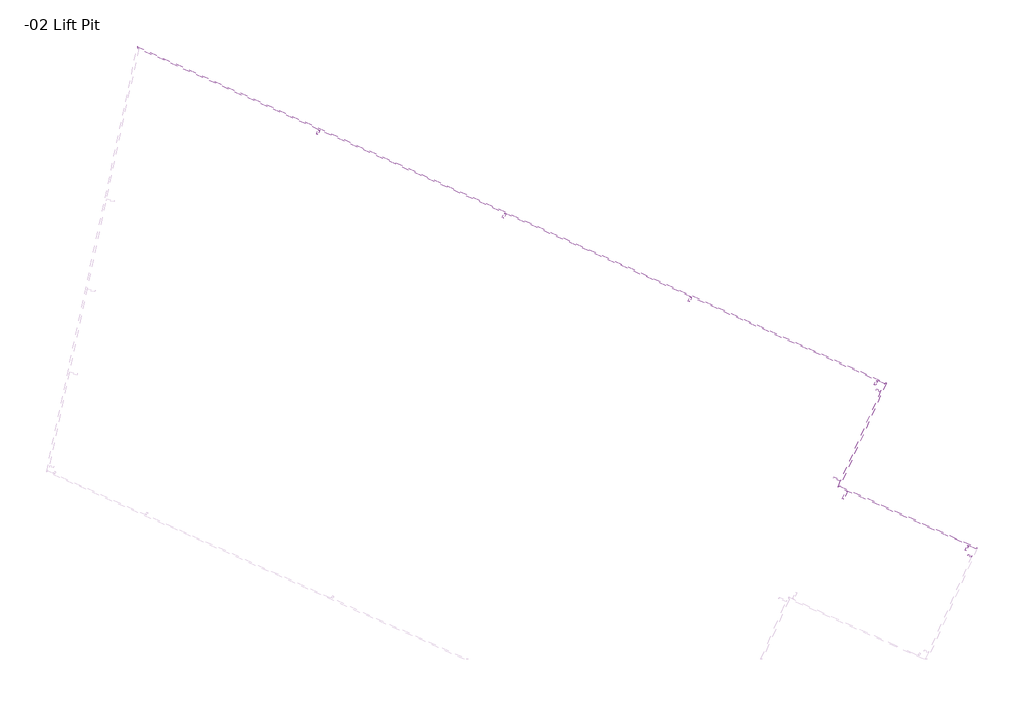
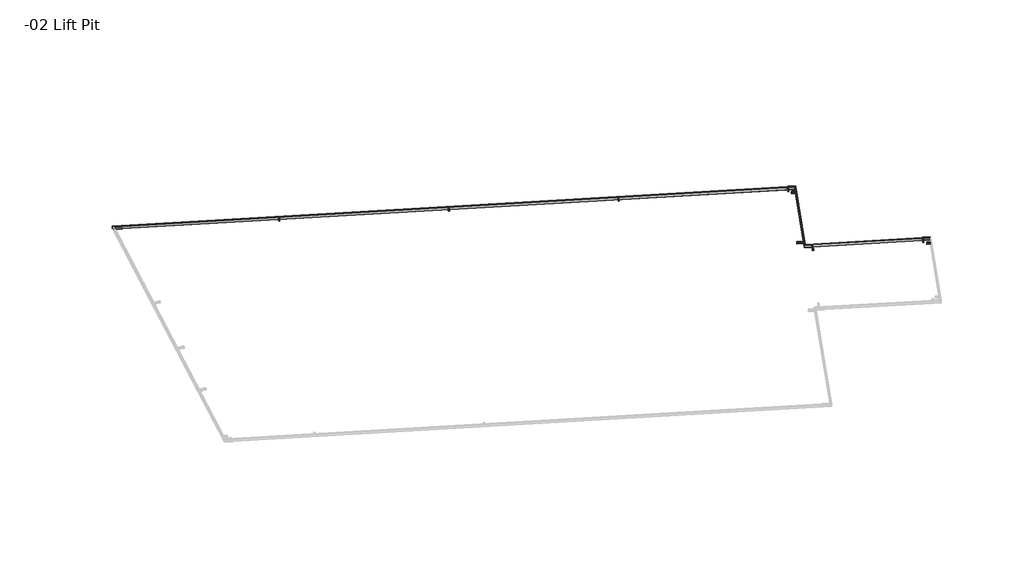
# One storey, part 3 of 3: 12 beams.
"""IFC4 building model written with IfcOpenShell, lengths in millimetres."""

from ifc_helpers import new_model, si_unit, frame, origin, place, context, project, spatial, polyline, ellipse_curve, transform, mapped, element, save
from ifc_brep_helpers import plane_surface, cylinder_surface, revolved_surface, advanced_brep
from components import hss_hollow_structural_section_hss3x2x1_8_a8fac2c2, hss_hollow_structural_section_hss3x2x1_8_4cf7df58, hss_hollow_structural_section_hss3x2x1_8_9bae5ac0, hss_hollow_structural_section_hss3x2x1_8_4448584e, hss_hollow_structural_section_hss3x2x1_8_013797e3, hss_hollow_structural_section_hss3x2x1_8_d322ad7d, hss_hollow_structural_section_hss3x2x1_8_eb60367d

model = new_model("IFC4")

# Units and contexts
model_context = context("Model", 3, world=origin())
ifc_project = project(units=[si_unit("LENGTHUNIT", "METRE", prefix="MILLI")], contexts=[model_context])

# Site, building, storey
site = spatial("IfcSite", under=ifc_project)
building = spatial("IfcBuilding", under=site)
storey = spatial("IfcBuildingStorey", under=building, Name="-02 Lift Pit", Elevation=-2133.6)

# Beams
placement = place(None, origin())
hss_hollow_structural_section_hss3x2x1_8_shape = hss_hollow_structural_section_hss3x2x1_8_a8fac2c2(model_context)
element("IfcBeam", 1, ObjectType="HSS-Hollow Structural Section : HSS3X2X1/8", at=placement, inside=storey, context=model_context, shape_type="MappedRepresentation", body=[
    mapped(hss_hollow_structural_section_hss3x2x1_8_shape, transform((36965.3915736, -2497.5805101, 16658.2302755), x_axis=(0.4091945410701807, 0.9109449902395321, 0.052335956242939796), y_axis=(-0.9121951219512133, 0.4097560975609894, 0.0), z_axis=(-0.021444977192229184, -0.04774060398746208, 0.9986295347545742))),
])
element("IfcBeam", 2, ObjectType="HSS-Hollow Structural Section : HSS3X2X1/8", at=placement, inside=storey, context=model_context, shape_type="MappedRepresentation", body=[
    mapped(hss_hollow_structural_section_hss3x2x1_8_shape, transform((43360.2442565, -5370.1346564, 16658.2302755), x_axis=(0.40919454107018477, 0.9109449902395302, 0.05233595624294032), y_axis=(-0.9121951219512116, 0.40975609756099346, 0.0), z_axis=(-0.0214449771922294, -0.047740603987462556, 0.9986295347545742))),
])
element("IfcBeam", 3, ObjectType="HSS-Hollow Structural Section : HSS3X2X1/8", at=placement, inside=storey, context=model_context, shape_type="MappedRepresentation", body=[
    mapped(hss_hollow_structural_section_hss3x2x1_8_shape, transform((56149.9496224, -11115.2429491, 16658.2302755), x_axis=(0.40919454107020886, 0.9109449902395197, 0.05233595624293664), y_axis=(-0.9121951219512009, 0.40975609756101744, 0.0), z_axis=(-0.021444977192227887, -0.04774060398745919, 0.9986295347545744))),
])
hss_hollow_structural_section_hss3x2x1_8_2_shape = hss_hollow_structural_section_hss3x2x1_8_4cf7df58(model_context)
element("IfcBeam", 4, ObjectType="HSS-Hollow Structural Section : HSS3X2X1/8", at=placement, inside=storey, context=model_context, shape_type="MappedRepresentation", body=[
    mapped(hss_hollow_structural_section_hss3x2x1_8_2_shape, transform((49758.4300196, -8235.2687316, 16658.6565762), x_axis=(0.40919454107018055, 0.9109449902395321, 0.052335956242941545), y_axis=(-0.9121951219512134, 0.40975609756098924, 0.0), z_axis=(-0.021444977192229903, -0.047740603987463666, 0.998629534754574))),
])
hss_hollow_structural_section_hss3x2x1_8_3_shape = hss_hollow_structural_section_hss3x2x1_8_9bae5ac0(model_context)
element("IfcBeam", 5, ObjectType="HSS-Hollow Structural Section : HSS3X2X1/8", at=placement, inside=storey, context=model_context, shape_type="MappedRepresentation", body=[
    mapped(hss_hollow_structural_section_hss3x2x1_8_3_shape, transform((56223.3592947, -11323.7476071, 16649.8389058), x_axis=(0.9121951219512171, -0.4097560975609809, 0.0), y_axis=(0.40919454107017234, 0.9109449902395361, 0.052335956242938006), z_axis=(-0.021444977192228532, -0.0477406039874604, 0.9986295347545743))),
])
hss_hollow_structural_section_hss3x2x1_8_4_shape = hss_hollow_structural_section_hss3x2x1_8_4448584e(model_context)
element("IfcBeam", 6, ObjectType="HSS-Hollow Structural Section : HSS3X2X1/8", at=placement, inside=storey, context=model_context, shape_type="MappedRepresentation", body=[
    mapped(hss_hollow_structural_section_hss3x2x1_8_4_shape, transform((54845.0693796, -14392.0834896, 16473.5557118), x_axis=(0.9121951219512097, -0.4097560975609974, 0.0), y_axis=(0.40919454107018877, 0.9109449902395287, 0.05233595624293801), z_axis=(-0.0214449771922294, -0.047740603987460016, 0.9986295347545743))),
])
hss_hollow_structural_section_hss3x2x1_8_5_shape = hss_hollow_structural_section_hss3x2x1_8_013797e3(model_context)
element("IfcBeam", 7, ObjectType="HSS-Hollow Structural Section : HSS3X2X1/8", at=placement, inside=storey, context=model_context, shape_type="MappedRepresentation", body=[
    mapped(hss_hollow_structural_section_hss3x2x1_8_5_shape, transform((55111.4186399, -14914.9250173, 16454.2803791), x_axis=(-0.409194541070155, -0.9109449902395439, -0.0523359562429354), y_axis=(0.912195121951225, -0.40975609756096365, 0.0), z_axis=(-0.021444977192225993, -0.04774060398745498, 0.9986295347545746))),
])
hss_hollow_structural_section_hss3x2x1_8_6_shape = hss_hollow_structural_section_hss3x2x1_8_d322ad7d(model_context)
element("IfcBeam", 8, ObjectType="HSS-Hollow Structural Section : HSS3X2X1/8", at=placement, inside=storey, context=model_context, shape_type="MappedRepresentation", body=[
    mapped(hss_hollow_structural_section_hss3x2x1_8_6_shape, transform((59281.9747374, -16788.3298954, 16454.2803791), x_axis=(0.40919454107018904, 0.9109449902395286, 0.05233595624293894), y_axis=(-0.9121951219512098, 0.4097560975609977, 0.0), z_axis=(-0.021444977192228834, -0.047740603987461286, 0.9986295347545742))),
])
hss_hollow_structural_section_hss3x2x1_8_7_shape = hss_hollow_structural_section_hss3x2x1_8_eb60367d(model_context)
element("IfcBeam", 9, ObjectType="HSS-Hollow Structural Section : HSS3X2X1/8", at=placement, inside=storey, context=model_context, shape_type="MappedRepresentation", body=[
    mapped(hss_hollow_structural_section_hss3x2x1_8_7_shape, transform((59352.9844438, -17002.1773347, 16445.582054), x_axis=(0.9121951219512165, -0.4097560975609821, 0.0), y_axis=(0.4091945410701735, 0.9109449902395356, 0.05233595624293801), z_axis=(-0.021444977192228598, -0.04774060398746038, 0.9986295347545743))),
])
element("IfcBeam", 10, ObjectType="HSS-Hollow Structural Section : HSS5X2X1/8", at=placement, inside=storey, context=model_context, shape_type="AdvancedBrep", body=[
    advanced_brep(
    [(56518.5551186, -11086.120904, 16705.6903584), (56526.4681746, -11082.8861722, 16700.1140396), (30771.4031294, 486.233955, 16700.1140396), (30775.5166497, 477.596911, 16705.6903584), (56467.0018937, -11105.6744879, 16703.6485024), (30803.5876534, 422.2762939, 16703.6485024), (56459.3415797, -11108.346568, 16697.455373), (30807.9539155, 414.2019015, 16697.455373), (56461.8123499, -11102.8461629, 16582.3988703), (30810.4246857, 419.7023065, 16582.3988703), (56469.7254058, -11099.6114312, 16576.8225515), (30806.3111655, 428.3393506, 16576.8225515), (56521.2786307, -11080.0578473, 16578.8644074), (30778.2401618, 483.6599677, 16578.8644074), (56528.9389447, -11077.3857672, 16585.0575369), (30773.8738996, 491.73436, 16585.0575369), (56518.6183041, -11085.980241, 16702.7479963), (56467.0650792, -11105.533825, 16700.7061404), (30803.6508388, 422.4169568, 16700.7061404), (30775.5798351, 477.7375739, 16702.7479963), (56522.5748321, -11084.3628752, 16699.9598369), (30773.523075, 482.0560959, 16699.9598369), (56525.0456022, -11078.8624701, 16584.9033342), (30775.9938452, 487.5565009, 16584.9033342), (56521.2154452, -11080.1985102, 16581.8067695), (30778.1769763, 483.5193048, 16581.8067695), (56469.6622203, -11099.7520941, 16579.7649136), (30806.24798, 428.1986877, 16579.7649136), (56465.7056924, -11101.36946, 16582.553073), (30808.3047401, 423.8801657, 16582.553073), (56463.2349222, -11106.869865, 16697.6095756), (30805.8339699, 418.3797606, 16697.6095756)],
    [
        (0, 1, ellipse_curve(frame((56518.6814896, -11085.8395781, 16699.8056342), z_axis=(-0.35567512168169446, 0.93387669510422, 0.03700710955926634), x_axis=(0.934363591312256, 0.3543940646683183, 0.03700710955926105)), 8.3336777, 5.8928)),
        (1, 2),
        (2, 3, ellipse_curve(frame((30775.6430206, 477.8782368, 16699.8056342), z_axis=(0.8916297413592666, 0.45093186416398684, 0.04070452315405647), x_axis=(0.45225713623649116, -0.891280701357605, -0.03289671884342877)), 9.3749569, 5.8928)),
        (3, 0),
        (4, 0),
        (3, 5),
        (5, 4),
        (6, 4, ellipse_curve(frame((56467.1282647, -11105.3931621, 16697.7637783), z_axis=(-0.35567512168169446, 0.93387669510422, 0.03700710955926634), x_axis=(0.934363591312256, 0.3543940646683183, 0.03700710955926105)), 8.3336777, 5.8928)),
        (5, 7, ellipse_curve(frame((30803.7140243, 422.5576197, 16697.7637783), z_axis=(0.8916297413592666, 0.45093186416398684, 0.04070452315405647), x_axis=(0.45225713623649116, -0.891280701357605, -0.03289671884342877)), 9.3749569, 5.8928)),
        (7, 6),
        (8, 6),
        (7, 9),
        (9, 8),
        (10, 8, ellipse_curve(frame((56469.5990349, -11099.892757, 16582.7072756), z_axis=(-0.35567512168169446, 0.93387669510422, 0.03700710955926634), x_axis=(0.934363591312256, 0.3543940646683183, 0.03700710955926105)), 8.3336777, 5.8928)),
        (9, 11, ellipse_curve(frame((30806.1847945, 428.0580248, 16582.7072756), z_axis=(0.8916297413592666, 0.45093186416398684, 0.04070452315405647), x_axis=(0.45225713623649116, -0.891280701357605, -0.03289671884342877)), 9.3749569, 5.8928)),
        (11, 10),
        (12, 10),
        (11, 13),
        (13, 12),
        (14, 12, ellipse_curve(frame((56521.1522597, -11080.3391731, 16584.7491316), z_axis=(-0.35567512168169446, 0.93387669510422, 0.03700710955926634), x_axis=(0.934363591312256, 0.3543940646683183, 0.03700710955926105)), 8.3336777, 5.8928)),
        (13, 15, ellipse_curve(frame((30778.1137908, 483.3786418, 16584.7491316), z_axis=(0.8916297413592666, 0.45093186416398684, 0.04070452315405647), x_axis=(0.45225713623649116, -0.891280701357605, -0.03289671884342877)), 9.3749569, 5.8928)),
        (15, 14),
        (1, 14),
        (15, 2),
        (16, 17),
        (17, 18),
        (18, 19),
        (19, 16),
        (20, 16, ellipse_curve(frame((56518.6814896, -11085.8395781, 16699.8056342), z_axis=(0.35567512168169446, -0.93387669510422, -0.03700710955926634), x_axis=(-0.934363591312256, -0.3543940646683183, -0.03700710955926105)), 4.1668388, 2.9464)),
        (19, 21, ellipse_curve(frame((30775.6430206, 477.8782368, 16699.8056342), z_axis=(-0.8916297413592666, -0.45093186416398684, -0.04070452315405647), x_axis=(-0.45225713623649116, 0.891280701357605, 0.03289671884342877)), 4.6874785, 2.9464)),
        (21, 20),
        (22, 20),
        (21, 23),
        (23, 22),
        (24, 22, ellipse_curve(frame((56521.1522597, -11080.3391731, 16584.7491316), z_axis=(0.35567512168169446, -0.93387669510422, -0.03700710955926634), x_axis=(-0.934363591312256, -0.3543940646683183, -0.03700710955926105)), 4.1668388, 2.9464)),
        (23, 25, ellipse_curve(frame((30778.1137908, 483.3786418, 16584.7491316), z_axis=(-0.8916297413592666, -0.45093186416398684, -0.04070452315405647), x_axis=(-0.45225713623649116, 0.891280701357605, 0.03289671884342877)), 4.6874785, 2.9464)),
        (25, 24),
        (26, 24),
        (25, 27),
        (27, 26),
        (28, 26, ellipse_curve(frame((56469.5990349, -11099.892757, 16582.7072756), z_axis=(0.35567512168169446, -0.93387669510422, -0.03700710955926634), x_axis=(-0.934363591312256, -0.3543940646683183, -0.03700710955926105)), 4.1668388, 2.9464)),
        (27, 29, ellipse_curve(frame((30806.1847945, 428.0580248, 16582.7072756), z_axis=(-0.8916297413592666, -0.45093186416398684, -0.04070452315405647), x_axis=(-0.45225713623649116, 0.891280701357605, 0.03289671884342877)), 4.6874785, 2.9464)),
        (29, 28),
        (30, 28),
        (29, 31),
        (31, 30),
        (17, 30, ellipse_curve(frame((56467.1282647, -11105.3931621, 16697.7637783), z_axis=(0.35567512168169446, -0.93387669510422, -0.03700710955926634), x_axis=(-0.934363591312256, -0.3543940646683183, -0.03700710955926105)), 4.1668388, 2.9464)),
        (31, 18, ellipse_curve(frame((30803.7140243, 422.5576197, 16697.7637783), z_axis=(-0.8916297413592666, -0.45093186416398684, -0.04070452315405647), x_axis=(-0.45225713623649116, 0.891280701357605, 0.03289671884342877)), 4.6874785, 2.9464)),
    ],
    [
        cylinder_surface(frame((56500.8871169, -11077.846384, 16699.8056342), z_axis=(0.9121951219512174, -0.40975609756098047, 0.0), x_axis=(-0.40919454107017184, -0.9109449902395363, -0.05233595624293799)), 5.8928),
        plane_surface(frame((56500.7607459, -11078.1277098, 16705.6903584), z_axis=(-0.02144497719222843, -0.04774060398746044, 0.9986295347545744), x_axis=(-0.9121951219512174, 0.40975609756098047, 0.0))),
        cylinder_surface(frame((56484.9226374, -11113.3863562, 16697.7637783), z_axis=(0.9121951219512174, -0.40975609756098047, 0.0), x_axis=(-0.40919454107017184, -0.9109449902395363, -0.05233595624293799)), 5.8928),
        plane_surface(frame((56482.5113358, -11118.7543728, 16697.455373), z_axis=(-0.4091945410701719, -0.9109449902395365, -0.052335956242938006), x_axis=(-0.9121951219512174, 0.40975609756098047, 0.0))),
        cylinder_surface(frame((56487.3934075, -11107.8859512, 16582.7072756), z_axis=(0.9121951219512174, -0.40975609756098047, 0.0), x_axis=(-0.40919454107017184, -0.9109449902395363, -0.05233595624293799)), 5.8928),
        plane_surface(frame((56487.5197785, -11107.6046253, 16576.8225515), z_axis=(0.02144497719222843, 0.04774060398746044, -0.9986295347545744), x_axis=(-0.9121951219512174, 0.40975609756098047, 0.0))),
        cylinder_surface(frame((56503.3578871, -11072.3459789, 16584.7491316), z_axis=(0.9121951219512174, -0.40975609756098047, 0.0), x_axis=(-0.40919454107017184, -0.9109449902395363, -0.05233595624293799)), 5.8928),
        plane_surface(frame((56505.7691886, -11066.9779623, 16585.0575369), z_axis=(0.4091945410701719, 0.9109449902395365, 0.052335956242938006), x_axis=(-0.9121951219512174, 0.40975609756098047, 0.0))),
        plane_surface(frame((56484.8594519, -11113.5270191, 16700.7061404), z_axis=(0.02144497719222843, 0.04774060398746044, -0.9986295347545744), x_axis=(-0.9121951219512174, 0.40975609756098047, 0.0))),
        revolved_surface(polyline([(30771.111773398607, 476.68807927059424, 16699.65143153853), (56520.16353050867, -11089.730891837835, 16699.65143153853)]), (56500.8871169, -11077.846384, 16699.8056342), (-0.9121951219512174, 0.40975609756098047, 0.0)),
        plane_surface(frame((56502.0927677, -11075.1623757, 16699.9598369), z_axis=(-0.4091945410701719, -0.9109449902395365, -0.052335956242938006), x_axis=(-0.9121951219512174, 0.40975609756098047, 0.0))),
        revolved_surface(polyline([(30773.58254363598, 482.1884843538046, 16584.594928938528), (56522.63430062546, -11084.230486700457, 16584.594928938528)]), (56503.3578871, -11072.3459789, 16584.7491316), (-0.9121951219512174, 0.40975609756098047, 0.0)),
        plane_surface(frame((56503.4210725, -11072.205316, 16581.8067695), z_axis=(-0.02144497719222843, -0.04774060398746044, 0.9986295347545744), x_axis=(-0.9121951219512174, 0.40975609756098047, 0.0))),
        revolved_surface(polyline([(30801.65354725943, 426.8678671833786, 16582.55307293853), (56471.08107575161, -11103.7840707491, 16582.55307293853)]), (56487.3934075, -11107.8859512, 16582.7072756), (-0.9121951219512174, 0.40975609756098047, 0.0)),
        plane_surface(frame((56486.1877568, -11110.5699595, 16582.553073), z_axis=(0.4091945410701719, 0.9109449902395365, 0.052335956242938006), x_axis=(-0.9121951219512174, 0.40975609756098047, 0.0))),
        revolved_surface(polyline([(30799.182777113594, 421.3674622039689, 16697.609575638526), (56468.61030560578, -11109.284475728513, 16697.609575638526)]), (56484.9226374, -11113.3863562, 16697.7637783), (-0.9121951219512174, 0.40975609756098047, 0.0)),
        plane_surface(frame((30806.1934373, 410.2827416, 16779.4356677), z_axis=(-0.8916297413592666, -0.45093186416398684, -0.04070452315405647), x_axis=(0.4527652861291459, -0.888019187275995, -0.08015933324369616))),
        plane_surface(frame((56457.5811015, -11112.2657278, 16779.4356677), z_axis=(0.3556751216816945, -0.9338766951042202, -0.037007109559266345), x_axis=(0.9346096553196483, 0.35539618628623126, 0.014083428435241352))),
    ],
    [
        (0, [[1, 2, 3, 4]]),
        (1, [[5, -4, 6, 7]]),
        (2, [[8, -7, 9, 10]]),
        (3, [[11, -10, 12, 13]]),
        (4, [[14, -13, 15, 16]]),
        (5, [[17, -16, 18, 19]]),
        (6, [[20, -19, 21, 22]]),
        (7, [[23, -22, 24, -2]]),
        (8, [[25, 26, 27, 28]]),
        (9, [[29, -28, 30, 31]]),
        (10, [[32, -31, 33, 34]]),
        (11, [[35, -34, 36, 37]]),
        (12, [[38, -37, 39, 40]]),
        (13, [[41, -40, 42, 43]]),
        (14, [[44, -43, 45, 46]]),
        (15, [[47, -46, 48, -26]]),
        (16, [[-24, -21, -18, -15, -12, -9, -6, -3], [-48, -45, -42, -39, -36, -33, -30, -27]]),
        (17, [[-1, -5, -8, -11, -14, -17, -20, -23], [-25, -29, -32, -35, -38, -41, -44, -47]]),
    ],
),
])
element("IfcBeam", 11, ObjectType="HSS-Hollow Structural Section : HSS5X2X1/8", at=placement, inside=storey, context=model_context, shape_type="AdvancedBrep", body=[
    advanced_brep(
    [(54925.8991442, -14631.6764659, 16501.9897587), (54933.8122002, -14628.4417342, 16496.4134399), (56526.4681746, -11082.8861722, 16700.1140396), (56518.5551186, -11086.120904, 16705.6903584), (54874.3459194, -14651.2300499, 16499.9479028), (56467.0018937, -11105.6744879, 16703.6485024), (54866.6856053, -14653.90213, 16493.7547733), (56459.3415797, -11108.346568, 16697.455373), (54869.1563755, -14648.4017249, 16378.6982707), (56461.8123499, -11102.8461629, 16582.3988703), (54877.0694315, -14645.1669932, 16373.1219519), (56469.7254058, -11099.6114312, 16576.8225515), (54928.6226563, -14625.6134092, 16375.1638078), (56521.2786307, -11080.0578473, 16578.8644074), (54936.2829704, -14622.9413292, 16381.3569373), (56528.9389447, -11077.3857672, 16585.0575369), (54925.9623297, -14631.535803, 16499.0473967), (54874.4091048, -14651.089387, 16497.0055407), (56467.0650792, -11105.533825, 16700.7061404), (56518.6183041, -11085.980241, 16702.7479963), (54929.9188577, -14629.9184372, 16496.2592373), (56522.5748321, -11084.3628752, 16699.9598369), (54932.3896279, -14624.4180321, 16381.2027346), (56525.0456022, -11078.8624701, 16584.9033342), (54928.5594708, -14625.7540722, 16378.1061699), (56521.2154452, -11080.1985102, 16581.8067695), (54877.006246, -14645.3076561, 16376.0643139), (56469.6622203, -11099.7520941, 16579.7649136), (54873.049718, -14646.925022, 16378.8524733), (56465.7056924, -11101.36946, 16582.553073), (54870.5789478, -14652.425427, 16493.908976), (56463.2349222, -11106.869865, 16697.6095756)],
    [
        (0, 1, ellipse_curve(frame((54926.0255152, -14631.3951401, 16496.1050346), z_axis=(-0.3556751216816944, 0.93387669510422, 0.0370071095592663), x_axis=(0.934363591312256, 0.3543940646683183, 0.037007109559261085)), 8.3336777, 5.8928)),
        (1, 2),
        (2, 3, ellipse_curve(frame((56518.6814896, -11085.8395781, 16699.8056342), z_axis=(0.35567512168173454, -0.9338766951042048, -0.037007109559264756), x_axis=(0.9343635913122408, 0.3543940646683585, 0.03700710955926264)), 8.3336777, 5.8928)),
        (3, 0),
        (4, 0),
        (3, 5),
        (5, 4),
        (6, 4, ellipse_curve(frame((54874.4722903, -14650.948724, 16494.0631787), z_axis=(-0.3556751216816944, 0.93387669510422, 0.0370071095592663), x_axis=(0.934363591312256, 0.3543940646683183, 0.037007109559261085)), 8.3336777, 5.8928)),
        (5, 7, ellipse_curve(frame((56467.1282647, -11105.3931621, 16697.7637783), z_axis=(0.35567512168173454, -0.9338766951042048, -0.037007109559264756), x_axis=(0.9343635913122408, 0.3543940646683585, 0.03700710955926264)), 8.3336777, 5.8928)),
        (7, 6),
        (8, 6),
        (7, 9),
        (9, 8),
        (10, 8, ellipse_curve(frame((54876.9430605, -14645.448319, 16379.006676), z_axis=(-0.3556751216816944, 0.93387669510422, 0.0370071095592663), x_axis=(0.934363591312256, 0.3543940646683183, 0.037007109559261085)), 8.3336777, 5.8928)),
        (9, 11, ellipse_curve(frame((56469.5990349, -11099.892757, 16582.7072756), z_axis=(0.35567512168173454, -0.9338766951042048, -0.037007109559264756), x_axis=(0.9343635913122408, 0.3543940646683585, 0.03700710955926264)), 8.3336777, 5.8928)),
        (11, 10),
        (12, 10),
        (11, 13),
        (13, 12),
        (14, 12, ellipse_curve(frame((54928.4962854, -14625.8947351, 16381.0485319), z_axis=(-0.3556751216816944, 0.93387669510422, 0.0370071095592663), x_axis=(0.934363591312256, 0.3543940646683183, 0.037007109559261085)), 8.3336777, 5.8928)),
        (13, 15, ellipse_curve(frame((56521.1522597, -11080.3391731, 16584.7491316), z_axis=(0.35567512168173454, -0.9338766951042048, -0.037007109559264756), x_axis=(0.9343635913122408, 0.3543940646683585, 0.03700710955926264)), 8.3336777, 5.8928)),
        (15, 14),
        (1, 14),
        (15, 2),
        (16, 17),
        (17, 18),
        (18, 19),
        (19, 16),
        (20, 16, ellipse_curve(frame((54926.0255152, -14631.3951401, 16496.1050346), z_axis=(0.3556751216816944, -0.93387669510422, -0.0370071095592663), x_axis=(0.934363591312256, 0.3543940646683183, 0.037007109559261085)), 4.1668388, 2.9464)),
        (19, 21, ellipse_curve(frame((56518.6814896, -11085.8395781, 16699.8056342), z_axis=(-0.35567512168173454, 0.9338766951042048, 0.037007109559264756), x_axis=(0.9343635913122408, 0.3543940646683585, 0.03700710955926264)), 4.1668388, 2.9464)),
        (21, 20),
        (22, 20),
        (21, 23),
        (23, 22),
        (24, 22, ellipse_curve(frame((54928.4962854, -14625.8947351, 16381.0485319), z_axis=(0.3556751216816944, -0.93387669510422, -0.0370071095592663), x_axis=(0.934363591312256, 0.3543940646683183, 0.037007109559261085)), 4.1668388, 2.9464)),
        (23, 25, ellipse_curve(frame((56521.1522597, -11080.3391731, 16584.7491316), z_axis=(-0.35567512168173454, 0.9338766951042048, 0.037007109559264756), x_axis=(0.9343635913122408, 0.3543940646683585, 0.03700710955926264)), 4.1668388, 2.9464)),
        (25, 24),
        (26, 24),
        (25, 27),
        (27, 26),
        (28, 26, ellipse_curve(frame((54876.9430605, -14645.448319, 16379.006676), z_axis=(0.3556751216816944, -0.93387669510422, -0.0370071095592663), x_axis=(0.934363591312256, 0.3543940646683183, 0.037007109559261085)), 4.1668388, 2.9464)),
        (27, 29, ellipse_curve(frame((56469.5990349, -11099.892757, 16582.7072756), z_axis=(-0.35567512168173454, 0.9338766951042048, 0.037007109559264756), x_axis=(0.9343635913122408, 0.3543940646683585, 0.03700710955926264)), 4.1668388, 2.9464)),
        (29, 28),
        (30, 28),
        (29, 31),
        (31, 30),
        (17, 30, ellipse_curve(frame((54874.4722903, -14650.948724, 16494.0631787), z_axis=(0.3556751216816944, -0.93387669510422, -0.0370071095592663), x_axis=(0.934363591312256, 0.3543940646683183, 0.037007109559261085)), 4.1668388, 2.9464)),
        (31, 18, ellipse_curve(frame((56467.1282647, -11105.3931621, 16697.7637783), z_axis=(-0.35567512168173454, 0.9338766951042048, 0.037007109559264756), x_axis=(0.9343635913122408, 0.3543940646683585, 0.03700710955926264)), 4.1668388, 2.9464)),
    ],
    [
        cylinder_surface(frame((54918.0432754, -14649.1651262, 16495.0841066), z_axis=(0.40919454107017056, 0.9109449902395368, 0.05233595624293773), x_axis=(-0.021444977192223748, -0.0477406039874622, 0.9986295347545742)), 5.8928),
        plane_surface(frame((54900.1225318, -14641.4532579, 16500.9688308), z_axis=(-0.021444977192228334, -0.04774060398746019, 0.9986295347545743), x_axis=(-0.9121951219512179, 0.40975609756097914, 0.0))),
        cylinder_surface(frame((54882.4545301, -14633.1787379, 16495.0841066), z_axis=(0.40919454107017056, 0.9109449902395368, 0.05233595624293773), x_axis=(-0.912195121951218, 0.40975609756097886, 0.0)), 5.8928),
        plane_surface(frame((54878.3145317, -14628.0139247, 16437.5558553), z_axis=(-0.9121951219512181, 0.40975609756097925, 0.0), x_axis=(0.02144497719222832, 0.047740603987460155, -0.9986295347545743))),
        cylinder_surface(frame((54884.9253002, -14627.6783329, 16380.027604), z_axis=(0.40919454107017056, 0.9109449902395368, 0.05233595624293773), x_axis=(0.02144497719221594, 0.047740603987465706, -0.9986295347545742)), 5.8928),
        plane_surface(frame((54902.8460439, -14635.3902012, 16374.1428798), z_axis=(0.021444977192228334, 0.04774060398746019, -0.9986295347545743), x_axis=(0.9121951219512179, -0.40975609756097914, 0.0))),
        cylinder_surface(frame((54920.5140456, -14643.6647212, 16380.027604), z_axis=(0.40919454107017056, 0.9109449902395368, 0.05233595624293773), x_axis=(0.9121951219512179, -0.40975609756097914, 0.0)), 5.8928),
        plane_surface(frame((54924.6540439, -14648.8295344, 16437.5558553), z_axis=(0.9121951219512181, -0.40975609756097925, 0.0), x_axis=(-0.02144497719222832, -0.047740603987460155, 0.9986295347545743))),
        plane_surface(frame((54900.1857173, -14641.312595, 16498.0264687), z_axis=(0.021444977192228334, 0.04774060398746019, -0.9986295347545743), x_axis=(0.9121951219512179, -0.40975609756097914, 0.0))),
        revolved_surface(polyline([(56522.57483202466, -11084.362875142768, 16699.959836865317), (54927.507556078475, -14635.286453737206, 16495.950831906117)]), (54918.0432754, -14649.1651262, 16495.0841066), (0.40919454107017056, 0.9109449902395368, 0.05233595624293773)),
        plane_surface(frame((54921.9663522, -14647.6222291, 16437.5558553), z_axis=(-0.9121951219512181, 0.40975609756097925, 0.0), x_axis=(0.02144497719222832, 0.047740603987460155, -0.9986295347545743))),
        revolved_surface(polyline([(56522.421096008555, -11077.514501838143, 16581.96097220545), (54927.353820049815, -14628.438080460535, 16377.951967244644)]), (54920.5140456, -14643.6647212, 16380.027604), (0.40919454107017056, 0.9109449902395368, 0.05233595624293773)),
        plane_surface(frame((54902.7828584, -14635.5308641, 16377.0852419), z_axis=(-0.021444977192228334, -0.04774060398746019, 0.9986295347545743), x_axis=(-0.9121951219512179, 0.40975609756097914, 0.0))),
        revolved_surface(polyline([(56468.11699391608, -11096.001443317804, 16582.86147833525), (54873.0497179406, -14646.92502197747, 16378.852473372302)]), (54884.9253002, -14627.6783329, 16380.027604), (0.40919454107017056, 0.9109449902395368, 0.05233595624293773)),
        plane_surface(frame((54881.0022235, -14629.22123, 16437.5558553), z_axis=(0.9121951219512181, -0.40975609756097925, 0.0), x_axis=(-0.02144497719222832, -0.047740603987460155, 0.9986295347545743))),
        revolved_surface(polyline([(56468.27072999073, -11102.849816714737, 16700.86034298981), (54873.20345405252, -14653.773395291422, 16496.851338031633)]), (54882.4545301, -14633.1787379, 16495.0841066), (0.40919454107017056, 0.9109449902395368, 0.05233595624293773)),
        plane_surface(frame((56457.5811015, -11112.2657278, 16779.4356677), z_axis=(-0.3556751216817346, 0.933876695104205, 0.03700710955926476), x_axis=(0.9346096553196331, 0.35539618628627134, 0.014083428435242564))),
        plane_surface(frame((54932.051722, -14632.3608941, 16578.3937346), z_axis=(0.35567512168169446, -0.9338766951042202, -0.03700710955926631), x_axis=(0.9346096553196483, 0.35539618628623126, 0.01408342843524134))),
    ],
    [
        (0, [[1, 2, 3, 4]]),
        (1, [[5, -4, 6, 7]]),
        (2, [[8, -7, 9, 10]]),
        (3, [[11, -10, 12, 13]]),
        (4, [[14, -13, 15, 16]]),
        (5, [[17, -16, 18, 19]]),
        (6, [[20, -19, 21, 22]]),
        (7, [[23, -22, 24, -2]]),
        (8, [[25, 26, 27, 28]]),
        (9, [[29, -28, 30, 31]]),
        (10, [[32, -31, 33, 34]]),
        (11, [[35, -34, 36, 37]]),
        (12, [[38, -37, 39, 40]]),
        (13, [[41, -40, 42, 43]]),
        (14, [[44, -43, 45, 46]]),
        (15, [[47, -46, 48, -26]]),
        (16, [[-24, -21, -18, -15, -12, -9, -6, -3], [-48, -45, -42, -39, -36, -33, -30, -27]]),
        (17, [[-1, -5, -8, -11, -14, -17, -20, -23], [-25, -29, -32, -35, -38, -41, -44, -47]]),
    ],
),
])
element("IfcBeam", 12, ObjectType="HSS-Hollow Structural Section : HSS5X2X1/8", at=placement, inside=storey, context=model_context, shape_type="AdvancedBrep", body=[
    advanced_brep(
    [(59652.5293881, -16754.8686611, 16501.9897587), (59660.4424441, -16751.6339293, 16496.4134399), (54933.8122002, -14628.4417342, 16496.4134399), (54925.8991442, -14631.6764659, 16501.9897587), (59600.9761633, -16774.422245, 16499.9479028), (54874.3459194, -14651.2300499, 16499.9479028), (59593.3158492, -16777.0943251, 16493.7547733), (54866.6856053, -14653.90213, 16493.7547733), (59595.7866194, -16771.59392, 16378.6982707), (54869.1563755, -14648.4017249, 16378.6982707), (59603.6996754, -16768.3591883, 16373.1219519), (54877.0694315, -14645.1669932, 16373.1219519), (59655.2529002, -16748.8056044, 16375.1638078), (54928.6226563, -14625.6134092, 16375.1638078), (59662.9132143, -16746.1335243, 16381.3569373), (54936.2829704, -14622.9413292, 16381.3569373), (59652.5925736, -16754.7279982, 16499.0473967), (59601.0393487, -16774.2815821, 16497.0055407), (54874.4091048, -14651.089387, 16497.0055407), (54925.9623297, -14631.535803, 16499.0473967), (59656.5491016, -16753.1106323, 16496.2592373), (54929.9188577, -14629.9184372, 16496.2592373), (59659.0198718, -16747.6102272, 16381.2027346), (54932.3896279, -14624.4180321, 16381.2027346), (59655.1897147, -16748.9462673, 16378.1061699), (54928.5594708, -14625.7540722, 16378.1061699), (59603.6364899, -16768.4998512, 16376.0643139), (54877.006246, -14645.3076561, 16376.0643139), (59599.6799619, -16770.1172171, 16378.8524733), (54873.049718, -14646.925022, 16378.8524733), (59597.2091917, -16775.6176221, 16493.908976), (54870.5789478, -14652.425427, 16493.908976)],
    [
        (0, 1, ellipse_curve(frame((59652.6557591, -16754.5873352, 16496.1050346), z_axis=(-0.35567512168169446, 0.93387669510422, 0.03700710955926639), x_axis=(-0.9343635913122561, -0.35439406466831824, -0.037007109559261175)), 8.3336777, 5.8928)),
        (1, 2),
        (2, 3, ellipse_curve(frame((54926.0255152, -14631.3951401, 16496.1050346), z_axis=(0.3556751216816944, -0.93387669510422, -0.0370071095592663), x_axis=(-0.9343635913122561, -0.35439406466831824, -0.037007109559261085)), 8.3336777, 5.8928)),
        (3, 0),
        (4, 0),
        (3, 5),
        (5, 4),
        (6, 4, ellipse_curve(frame((59601.1025342, -16774.1409192, 16494.0631787), z_axis=(-0.35567512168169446, 0.93387669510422, 0.03700710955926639), x_axis=(-0.9343635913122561, -0.35439406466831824, -0.037007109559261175)), 8.3336777, 5.8928)),
        (5, 7, ellipse_curve(frame((54874.4722903, -14650.948724, 16494.0631787), z_axis=(0.3556751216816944, -0.93387669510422, -0.0370071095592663), x_axis=(-0.9343635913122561, -0.35439406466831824, -0.037007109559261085)), 8.3336777, 5.8928)),
        (7, 6),
        (8, 6),
        (7, 9),
        (9, 8),
        (10, 8, ellipse_curve(frame((59603.5733044, -16768.6405141, 16379.006676), z_axis=(-0.35567512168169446, 0.93387669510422, 0.03700710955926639), x_axis=(-0.9343635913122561, -0.35439406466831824, -0.037007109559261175)), 8.3336777, 5.8928)),
        (9, 11, ellipse_curve(frame((54876.9430605, -14645.448319, 16379.006676), z_axis=(0.3556751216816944, -0.93387669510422, -0.0370071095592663), x_axis=(-0.9343635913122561, -0.35439406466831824, -0.037007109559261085)), 8.3336777, 5.8928)),
        (11, 10),
        (12, 10),
        (11, 13),
        (13, 12),
        (14, 12, ellipse_curve(frame((59655.1265293, -16749.0869302, 16381.0485319), z_axis=(-0.35567512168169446, 0.93387669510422, 0.03700710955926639), x_axis=(-0.9343635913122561, -0.35439406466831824, -0.037007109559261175)), 8.3336777, 5.8928)),
        (13, 15, ellipse_curve(frame((54928.4962854, -14625.8947351, 16381.0485319), z_axis=(0.3556751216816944, -0.93387669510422, -0.0370071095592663), x_axis=(-0.9343635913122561, -0.35439406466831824, -0.037007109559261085)), 8.3336777, 5.8928)),
        (15, 14),
        (1, 14),
        (15, 2),
        (16, 17),
        (17, 18),
        (18, 19),
        (19, 16),
        (20, 16, ellipse_curve(frame((59652.6557591, -16754.5873352, 16496.1050346), z_axis=(0.35567512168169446, -0.93387669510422, -0.03700710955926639), x_axis=(-0.9343635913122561, -0.35439406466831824, -0.037007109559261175)), 4.1668388, 2.9464)),
        (19, 21, ellipse_curve(frame((54926.0255152, -14631.3951401, 16496.1050346), z_axis=(-0.3556751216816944, 0.93387669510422, 0.0370071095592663), x_axis=(-0.9343635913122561, -0.35439406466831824, -0.037007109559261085)), 4.1668388, 2.9464)),
        (21, 20),
        (22, 20),
        (21, 23),
        (23, 22),
        (24, 22, ellipse_curve(frame((59655.1265293, -16749.0869302, 16381.0485319), z_axis=(0.35567512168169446, -0.93387669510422, -0.03700710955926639), x_axis=(-0.9343635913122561, -0.35439406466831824, -0.037007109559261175)), 4.1668388, 2.9464)),
        (23, 25, ellipse_curve(frame((54928.4962854, -14625.8947351, 16381.0485319), z_axis=(-0.3556751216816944, 0.93387669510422, 0.0370071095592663), x_axis=(-0.9343635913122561, -0.35439406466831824, -0.037007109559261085)), 4.1668388, 2.9464)),
        (25, 24),
        (26, 24),
        (25, 27),
        (27, 26),
        (28, 26, ellipse_curve(frame((59603.5733044, -16768.6405141, 16379.006676), z_axis=(0.35567512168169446, -0.93387669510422, -0.03700710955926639), x_axis=(-0.9343635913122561, -0.35439406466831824, -0.037007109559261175)), 4.1668388, 2.9464)),
        (27, 29, ellipse_curve(frame((54876.9430605, -14645.448319, 16379.006676), z_axis=(-0.3556751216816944, 0.93387669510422, 0.0370071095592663), x_axis=(-0.9343635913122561, -0.35439406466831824, -0.037007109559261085)), 4.1668388, 2.9464)),
        (29, 28),
        (30, 28),
        (29, 31),
        (31, 30),
        (17, 30, ellipse_curve(frame((59601.1025342, -16774.1409192, 16494.0631787), z_axis=(0.35567512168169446, -0.93387669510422, -0.03700710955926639), x_axis=(-0.9343635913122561, -0.35439406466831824, -0.037007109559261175)), 4.1668388, 2.9464)),
        (31, 18, ellipse_curve(frame((54874.4722903, -14650.948724, 16494.0631787), z_axis=(-0.3556751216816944, 0.93387669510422, 0.0370071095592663), x_axis=(-0.9343635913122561, -0.35439406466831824, -0.037007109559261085)), 4.1668388, 2.9464)),
    ],
    [
        cylinder_surface(frame((59634.8613864, -16746.5941411, 16496.1050346), z_axis=(-0.9121951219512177, 0.4097560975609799, 0.0), x_axis=(-0.02144497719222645, -0.04774060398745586, 0.9986295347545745)), 5.8928),
        plane_surface(frame((59626.7527757, -16764.645453, 16500.9688308), z_axis=(-0.02144497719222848, -0.047740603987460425, 0.9986295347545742), x_axis=(-0.4091945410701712, -0.9109449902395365, -0.052335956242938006))),
        cylinder_surface(frame((59618.8969069, -16782.1341133, 16494.0631787), z_axis=(-0.9121951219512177, 0.4097560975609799, 0.0), x_axis=(-0.40919454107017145, -0.9109449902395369, -0.05233595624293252)), 5.8928),
        plane_surface(frame((59617.7209904, -16784.7519274, 16436.226522), z_axis=(-0.40919454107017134, -0.9109449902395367, -0.05233595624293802), x_axis=(0.0214449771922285, 0.04774060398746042, -0.9986295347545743))),
        cylinder_surface(frame((59621.3676771, -16776.6337083, 16379.006676), z_axis=(-0.9121951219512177, 0.4097560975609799, 0.0), x_axis=(0.02144497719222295, 0.04774060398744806, -0.9986295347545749)), 5.8928),
        plane_surface(frame((59629.4762878, -16758.5823963, 16374.1428798), z_axis=(0.02144497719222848, 0.047740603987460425, -0.9986295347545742), x_axis=(0.4091945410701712, 0.9109449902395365, 0.052335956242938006))),
        cylinder_surface(frame((59637.3321566, -16741.093736, 16381.0485319), z_axis=(-0.9121951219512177, 0.4097560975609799, 0.0), x_axis=(0.40919454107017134, 0.9109449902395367, 0.05233595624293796)), 5.8928),
        plane_surface(frame((59638.5080731, -16738.4759219, 16438.8851886), z_axis=(0.40919454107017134, 0.9109449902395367, 0.05233595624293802), x_axis=(-0.0214449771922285, -0.04774060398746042, 0.9986295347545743))),
        plane_surface(frame((59626.8159612, -16764.5047901, 16498.0264687), z_axis=(0.02144497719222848, 0.047740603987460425, -0.9986295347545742), x_axis=(0.4091945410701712, 0.9109449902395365, 0.052335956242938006))),
        revolved_surface(polyline([(54924.54347430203, -14627.503826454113, 16496.259237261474), (59656.54910160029, -16753.11063229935, 16496.259237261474)]), (59634.8613864, -16746.5941411, 16496.1050346), (-0.9121951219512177, 0.4097560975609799, 0.0)),
        plane_surface(frame((59637.3024223, -16741.1599302, 16438.7309859), z_axis=(-0.40919454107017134, -0.9109449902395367, -0.05233595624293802), x_axis=(0.0214449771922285, 0.04774060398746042, -0.9986295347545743))),
        revolved_surface(polyline([(54925.87177922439, -14624.54676677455, 16378.106169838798), (59657.877406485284, -16750.153572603, 16378.106169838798)]), (59637.3321566, -16741.093736, 16381.0485319), (-0.9121951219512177, 0.4097560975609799, 0.0)),
        plane_surface(frame((59629.4131023, -16758.7230592, 16377.0852419), z_axis=(-0.02144497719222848, -0.047740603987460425, 0.9986295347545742), x_axis=(-0.4091945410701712, -0.9109449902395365, -0.052335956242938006))),
        revolved_surface(polyline([(54873.04971800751, -14646.925021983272, 16378.852473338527), (59605.0553452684, -16772.53182781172, 16378.852473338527)]), (59621.3676771, -16776.6337083, 16379.006676), (-0.9121951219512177, 0.4097560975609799, 0.0)),
        plane_surface(frame((59618.9266412, -16782.0679191, 16436.3807247), z_axis=(0.40919454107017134, 0.9109449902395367, 0.05233595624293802), x_axis=(-0.0214449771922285, -0.04774060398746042, 0.9986295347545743))),
        revolved_surface(polyline([(54871.72141312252, -14649.88208157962, 16497.005540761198), (59603.72704042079, -16775.488887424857, 16497.005540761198)]), (59618.8969069, -16782.1341133, 16494.0631787), (-0.9121951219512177, 0.4097560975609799, 0.0)),
        plane_surface(frame((54932.051722, -14632.3608941, 16578.3937346), z_axis=(-0.35567512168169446, 0.9338766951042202, 0.03700710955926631), x_axis=(0.9346096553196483, 0.35539618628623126, 0.01408342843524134))),
        plane_surface(frame((59591.555371, -16781.0134849, 16575.735068), z_axis=(0.3556751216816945, -0.9338766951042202, -0.0370071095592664), x_axis=(0.9346096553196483, 0.35539618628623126, 0.014083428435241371))),
    ],
    [
        (0, [[1, 2, 3, 4]]),
        (1, [[5, -4, 6, 7]]),
        (2, [[8, -7, 9, 10]]),
        (3, [[11, -10, 12, 13]]),
        (4, [[14, -13, 15, 16]]),
        (5, [[17, -16, 18, 19]]),
        (6, [[20, -19, 21, 22]]),
        (7, [[23, -22, 24, -2]]),
        (8, [[25, 26, 27, 28]]),
        (9, [[29, -28, 30, 31]]),
        (10, [[32, -31, 33, 34]]),
        (11, [[35, -34, 36, 37]]),
        (12, [[38, -37, 39, 40]]),
        (13, [[41, -40, 42, 43]]),
        (14, [[44, -43, 45, 46]]),
        (15, [[47, -46, 48, -26]]),
        (16, [[-24, -21, -18, -15, -12, -9, -6, -3], [-48, -45, -42, -39, -36, -33, -30, -27]]),
        (17, [[-1, -5, -8, -11, -14, -17, -20, -23], [-25, -29, -32, -35, -38, -41, -44, -47]]),
    ],
),
])

save(model, "model.ifc")
